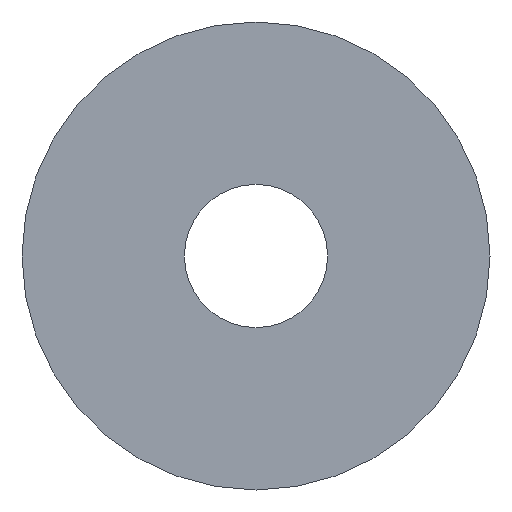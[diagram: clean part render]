
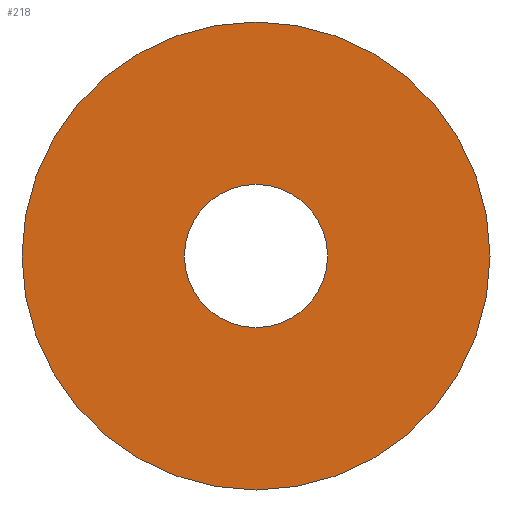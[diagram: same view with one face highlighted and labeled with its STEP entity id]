
A CAD part, front view. The second image highlights one B-rep face of the part: STEP entity #218.
In plain terms, the highlighted planar face has unit normal (0, -1, 0).
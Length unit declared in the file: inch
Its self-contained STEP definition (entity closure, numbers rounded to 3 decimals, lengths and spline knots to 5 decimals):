
#2 = DIRECTION ( 'NONE',  ( 0., 0., 1. ) ) ;
#5 = DIRECTION ( 'NONE',  ( 0., 1., 0. ) ) ;
#6 = ORIENTED_EDGE ( 'NONE', *, *, #31, .T. ) ;
#13 = DIRECTION ( 'NONE',  ( 0., -1., 0. ) ) ;
#31 = EDGE_CURVE ( 'NONE', #225, #183, #230, .T. ) ;
#48 = CARTESIAN_POINT ( 'NONE',  ( 0., 0., 0. ) ) ;
#58 = DIRECTION ( 'NONE',  ( 0., -1., 0. ) ) ;
#80 = FACE_BOUND ( 'NONE', #108, .T. ) ;
#83 = DIRECTION ( 'NONE',  ( 0., 0., -1. ) ) ;
#84 = VERTEX_POINT ( 'NONE', #144 ) ;
#86 = AXIS2_PLACEMENT_3D ( 'NONE', #150, #5, #2 ) ;
#92 = AXIS2_PLACEMENT_3D ( 'NONE', #277, #58, #307 ) ;
#98 = EDGE_LOOP ( 'NONE', ( #6, #297 ) ) ;
#108 = EDGE_LOOP ( 'NONE', ( #274, #151 ) ) ;
#144 = CARTESIAN_POINT ( 'NONE',  ( 0., 0., 0.05906 ) ) ;
#150 = CARTESIAN_POINT ( 'NONE',  ( -0.19291, 0., 0. ) ) ;
#151 = ORIENTED_EDGE ( 'NONE', *, *, #361, .F. ) ;
#176 = DIRECTION ( 'NONE',  ( 0., -1., 0. ) ) ;
#180 = VERTEX_POINT ( 'NONE', #197 ) ;
#183 = VERTEX_POINT ( 'NONE', #233 ) ;
#186 = CARTESIAN_POINT ( 'NONE',  ( 0., 0., 0. ) ) ;
#196 = DIRECTION ( 'NONE',  ( 0., 0., -1. ) ) ;
#197 = CARTESIAN_POINT ( 'NONE',  ( 0., 0., -0.05906 ) ) ;
#218 = ADVANCED_FACE ( 'NONE', ( #80, #240 ), #265, .F. ) ;
#222 = EDGE_CURVE ( 'NONE', #180, #84, #261, .T. ) ;
#225 = VERTEX_POINT ( 'NONE', #335 ) ;
#230 = CIRCLE ( 'NONE', #296, 0.19291 ) ;
#233 = CARTESIAN_POINT ( 'NONE',  ( 0., 0., 0.19291 ) ) ;
#240 = FACE_OUTER_BOUND ( 'NONE', #98, .T. ) ;
#246 = DIRECTION ( 'NONE',  ( 0., -1., 0. ) ) ;
#260 = AXIS2_PLACEMENT_3D ( 'NONE', #48, #13, #83 ) ;
#261 = CIRCLE ( 'NONE', #260, 0.05906 ) ;
#265 = PLANE ( 'NONE',  #86 ) ;
#274 = ORIENTED_EDGE ( 'NONE', *, *, #222, .F. ) ;
#276 = EDGE_CURVE ( 'NONE', #183, #225, #299, .T. ) ;
#277 = CARTESIAN_POINT ( 'NONE',  ( 0., 0., 0. ) ) ;
#285 = CARTESIAN_POINT ( 'NONE',  ( 0., 0., 0. ) ) ;
#296 = AXIS2_PLACEMENT_3D ( 'NONE', #285, #176, #196 ) ;
#297 = ORIENTED_EDGE ( 'NONE', *, *, #276, .T. ) ;
#299 = CIRCLE ( 'NONE', #301, 0.19291 ) ;
#301 = AXIS2_PLACEMENT_3D ( 'NONE', #186, #246, #363 ) ;
#307 = DIRECTION ( 'NONE',  ( 0., 0., -1. ) ) ;
#335 = CARTESIAN_POINT ( 'NONE',  ( 0., 0., -0.19291 ) ) ;
#338 = CIRCLE ( 'NONE', #92, 0.05906 ) ;
#361 = EDGE_CURVE ( 'NONE', #84, #180, #338, .T. ) ;
#363 = DIRECTION ( 'NONE',  ( 0., 0., -1. ) ) ;
